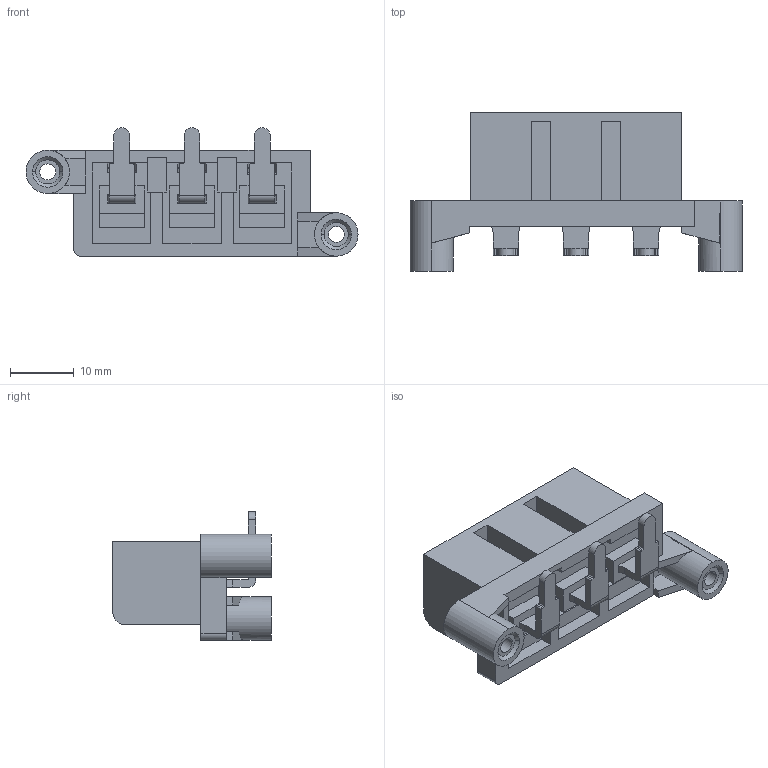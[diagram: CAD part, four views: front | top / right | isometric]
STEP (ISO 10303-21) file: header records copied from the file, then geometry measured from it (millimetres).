
FILE_DESCRIPTION((''),'2;1');
FILE_NAME('3PIN','2021-06-01T',('hanke'),(''),'CREO PARAMETRIC BY PTC INC, 2016260','CREO PARAMETRIC BY PTC INC, 2016260','');
FILE_SCHEMA(('CONFIG_CONTROL_DESIGN'));
Products named in the file (1): 3PIN
Bounding box: 52 x 24.8 x 20.1 mm (x, y, z)
Volume: 5626.7 mm3; surface area: 8327.2 mm2
Topology: 4 solids, 4 shells, 933 faces, 2741 edges, 1783 vertices
Faces by surface type: plane 573, bspline 165, cylinder 115, extrusion 48, cone 20, torus 12
Entity records: 46465 total; most frequent: CARTESIAN_POINT 23748, ORIENTED_EDGE 5470, DIRECTION 3555, EDGE_CURVE 2735, VERTEX_POINT 1783, VECTOR 1663, LINE 1615, EDGE_LOOP 968
